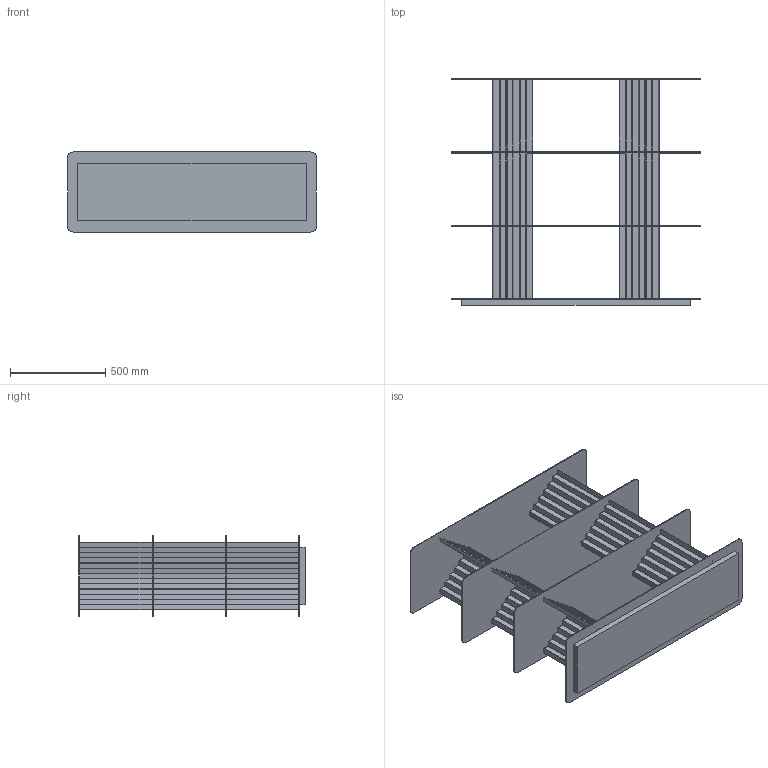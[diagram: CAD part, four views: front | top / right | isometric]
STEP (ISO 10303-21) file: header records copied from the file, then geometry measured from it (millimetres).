
FILE_DESCRIPTION (( 'STEP AP203' ), '1' );
FILE_NAME ('PLEC SHELVES XS 3 NIVELES.STEP', '2025-05-08T10:15:55', ( '' ), ( '' ), 'SwSTEP 2.0', 'SolidWorks 2020', '' );
FILE_SCHEMA (( 'CONFIG_CONTROL_DESIGN' ));
Length unit declared in the file: millimetre
Products named in the file (1): PLEC SHELVES XS 3 NIVELES
Bounding box: 1305 x 1187 x 420 mm (x, y, z)
Volume: 24207526.2 mm3; surface area: 8557701.4 mm2
Topology: 11 solids, 11 shells, 370 faces, 1044 edges, 696 vertices
Faces by surface type: plane 354, cylinder 16
Entity records: 11797 total; most frequent: CARTESIAN_POINT 2111, ORIENTED_EDGE 2088, DIRECTION 1818, EDGE_CURVE 1044, VECTOR 1012, LINE 1012, VERTEX_POINT 696, AXIS2_PLACEMENT_3D 403
